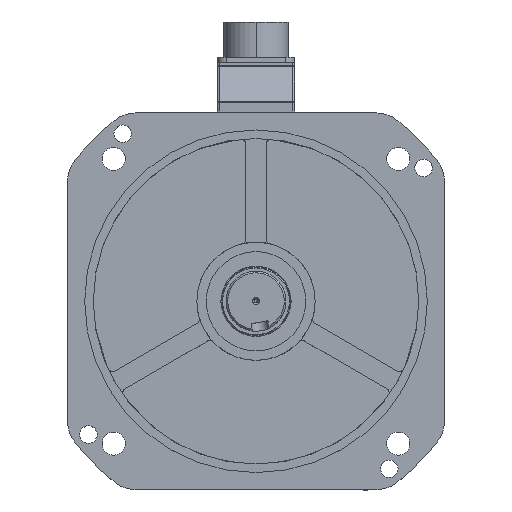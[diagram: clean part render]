
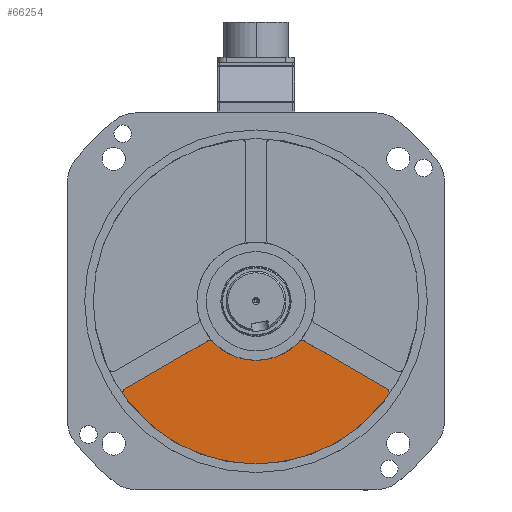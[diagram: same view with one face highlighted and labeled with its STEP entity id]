
A CAD part, top view. The second image highlights one B-rep face of the part: STEP entity #66254.
In plain terms, the highlighted planar face has unit normal (0, 0, 1).
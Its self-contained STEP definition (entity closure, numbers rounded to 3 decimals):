
#780 = CARTESIAN_POINT ( 'NONE',  ( -3., 5.196, 16. ) ) ;
#1507 = DIRECTION ( 'NONE',  ( -0.866, 0.5, 0. ) ) ;
#2674 = ORIENTED_EDGE ( 'NONE', *, *, #29580, .F. ) ;
#3547 = CARTESIAN_POINT ( 'NONE',  ( 24.865, 23.917, 16. ) ) ;
#3750 = AXIS2_PLACEMENT_3D ( 'NONE', #67881, #41032, #41361 ) ;
#3784 = AXIS2_PLACEMENT_3D ( 'NONE', #59133, #21820, #37858 ) ;
#3789 = VERTEX_POINT ( 'NONE', #33687 ) ;
#4151 = VERTEX_POINT ( 'NONE', #62167 ) ;
#4990 = DIRECTION ( 'NONE',  ( 1., 0., 0. ) ) ;
#6403 = VERTEX_POINT ( 'NONE', #40848 ) ;
#7068 = LINE ( 'NONE', #17199, #50121 ) ;
#9207 = VERTEX_POINT ( 'NONE', #12638 ) ;
#9415 = AXIS2_PLACEMENT_3D ( 'NONE', #22366, #50240, #60355 ) ;
#12638 = CARTESIAN_POINT ( 'NONE',  ( 28.527, 23.398, 16. ) ) ;
#16751 = VERTEX_POINT ( 'NONE', #24685 ) ;
#17199 = CARTESIAN_POINT ( 'NONE',  ( 3., 5.196, 16. ) ) ;
#18406 = ORIENTED_EDGE ( 'NONE', *, *, #19735, .T. ) ;
#18665 = ORIENTED_EDGE ( 'NONE', *, *, #32590, .F. ) ;
#19361 = AXIS2_PLACEMENT_3D ( 'NONE', #21691, #32843, #4990 ) ;
#19735 = EDGE_CURVE ( 'NONE', #36264, #68894, #20970, .T. ) ;
#20970 = CIRCLE ( 'NONE', #66616, 3. ) ;
#21593 = AXIS2_PLACEMENT_3D ( 'NONE', #34693, #33314, #60488 ) ;
#21691 = CARTESIAN_POINT ( 'NONE',  ( 0., 0., 16. ) ) ;
#21820 = DIRECTION ( 'NONE',  ( 0., 0., 1. ) ) ;
#22366 = CARTESIAN_POINT ( 'NONE',  ( -27.027, 25.996, 16. ) ) ;
#24685 = CARTESIAN_POINT ( 'NONE',  ( -24.865, 23.917, 16. ) ) ;
#27085 = CIRCLE ( 'NONE', #53830, 3. ) ;
#27160 = CARTESIAN_POINT ( 'NONE',  ( 74.792, 53.574, 16. ) ) ;
#28800 = ORIENTED_EDGE ( 'NONE', *, *, #66470, .T. ) ;
#29562 = EDGE_CURVE ( 'NONE', #52366, #9207, #40514, .T. ) ;
#29580 = EDGE_CURVE ( 'NONE', #6403, #68894, #30503, .T. ) ;
#29601 = CARTESIAN_POINT ( 'NONE',  ( -76.292, 50.976, 16. ) ) ;
#30503 = CIRCLE ( 'NONE', #21593, 95. ) ;
#31488 = PLANE ( 'NONE',  #19361 ) ;
#32170 = DIRECTION ( 'NONE',  ( 0.866, 0.5, 0. ) ) ;
#32590 = EDGE_CURVE ( 'NONE', #52366, #16751, #52707, .T. ) ;
#32843 = DIRECTION ( 'NONE',  ( 0., 0., 1. ) ) ;
#33314 = DIRECTION ( 'NONE',  ( 0., 0., -1. ) ) ;
#33687 = CARTESIAN_POINT ( 'NONE',  ( -77.792, 53.574, 16. ) ) ;
#34693 = CARTESIAN_POINT ( 'NONE',  ( 0., 0., 16. ) ) ;
#36133 = LINE ( 'NONE', #780, #60714 ) ;
#36264 = VERTEX_POINT ( 'NONE', #42237 ) ;
#37858 = DIRECTION ( 'NONE',  ( 1., 0., 0. ) ) ;
#38542 = CARTESIAN_POINT ( 'NONE',  ( 0., 0., 16. ) ) ;
#40514 = CIRCLE ( 'NONE', #3784, 3. ) ;
#40848 = CARTESIAN_POINT ( 'NONE',  ( -77.231, 55.321, 16. ) ) ;
#41032 = DIRECTION ( 'NONE',  ( 0., 0., 1. ) ) ;
#41361 = DIRECTION ( 'NONE',  ( 1., 0., 0. ) ) ;
#42237 = CARTESIAN_POINT ( 'NONE',  ( 76.292, 50.976, 16. ) ) ;
#43374 = EDGE_LOOP ( 'NONE', ( #18406, #2674, #54332, #63794, #46261, #28800, #18665, #47395, #58414 ) ) ;
#44457 = DIRECTION ( 'NONE',  ( 0., 0., 1. ) ) ;
#46261 = ORIENTED_EDGE ( 'NONE', *, *, #46527, .F. ) ;
#46527 = EDGE_CURVE ( 'NONE', #4151, #51033, #7068, .T. ) ;
#46925 = DIRECTION ( 'NONE',  ( 1., 0., 0. ) ) ;
#47395 = ORIENTED_EDGE ( 'NONE', *, *, #29562, .T. ) ;
#47758 = DIRECTION ( 'NONE',  ( 0., 0., 1. ) ) ;
#50121 = VECTOR ( 'NONE', #1507, 1000. ) ;
#50240 = DIRECTION ( 'NONE',  ( 0., 0., 1. ) ) ;
#50564 = CIRCLE ( 'NONE', #9415, 3. ) ;
#51033 = VERTEX_POINT ( 'NONE', #29601 ) ;
#51550 = EDGE_CURVE ( 'NONE', #6403, #3789, #64987, .T. ) ;
#52366 = VERTEX_POINT ( 'NONE', #3547 ) ;
#52707 = CIRCLE ( 'NONE', #62757, 34.5 ) ;
#53792 = FACE_OUTER_BOUND ( 'NONE', #43374, .T. ) ;
#53830 = AXIS2_PLACEMENT_3D ( 'NONE', #56699, #58083, #46925 ) ;
#54332 = ORIENTED_EDGE ( 'NONE', *, *, #51550, .T. ) ;
#54564 = CARTESIAN_POINT ( 'NONE',  ( 77.231, 55.321, 16. ) ) ;
#54921 = DIRECTION ( 'NONE',  ( 1., 0., 0. ) ) ;
#56699 = CARTESIAN_POINT ( 'NONE',  ( -74.792, 53.574, 16. ) ) ;
#58083 = DIRECTION ( 'NONE',  ( 0., 0., 1. ) ) ;
#58414 = ORIENTED_EDGE ( 'NONE', *, *, #67441, .T. ) ;
#59133 = CARTESIAN_POINT ( 'NONE',  ( 27.027, 25.996, 16. ) ) ;
#59233 = DIRECTION ( 'NONE',  ( 1., 0., 0. ) ) ;
#60355 = DIRECTION ( 'NONE',  ( 1., 0., 0. ) ) ;
#60488 = DIRECTION ( 'NONE',  ( 1., 0., 0. ) ) ;
#60714 = VECTOR ( 'NONE', #32170, 1000. ) ;
#62167 = CARTESIAN_POINT ( 'NONE',  ( -28.527, 23.398, 16. ) ) ;
#62757 = AXIS2_PLACEMENT_3D ( 'NONE', #38542, #44457, #54921 ) ;
#63794 = ORIENTED_EDGE ( 'NONE', *, *, #65691, .T. ) ;
#64987 = CIRCLE ( 'NONE', #3750, 3. ) ;
#65691 = EDGE_CURVE ( 'NONE', #3789, #51033, #27085, .T. ) ;
#66254 = ADVANCED_FACE ( 'NONE', ( #53792 ), #31488, .T. ) ;
#66470 = EDGE_CURVE ( 'NONE', #4151, #16751, #50564, .T. ) ;
#66616 = AXIS2_PLACEMENT_3D ( 'NONE', #27160, #47758, #59233 ) ;
#67441 = EDGE_CURVE ( 'NONE', #9207, #36264, #36133, .T. ) ;
#67881 = CARTESIAN_POINT ( 'NONE',  ( -74.792, 53.574, 16. ) ) ;
#68894 = VERTEX_POINT ( 'NONE', #54564 ) ;
